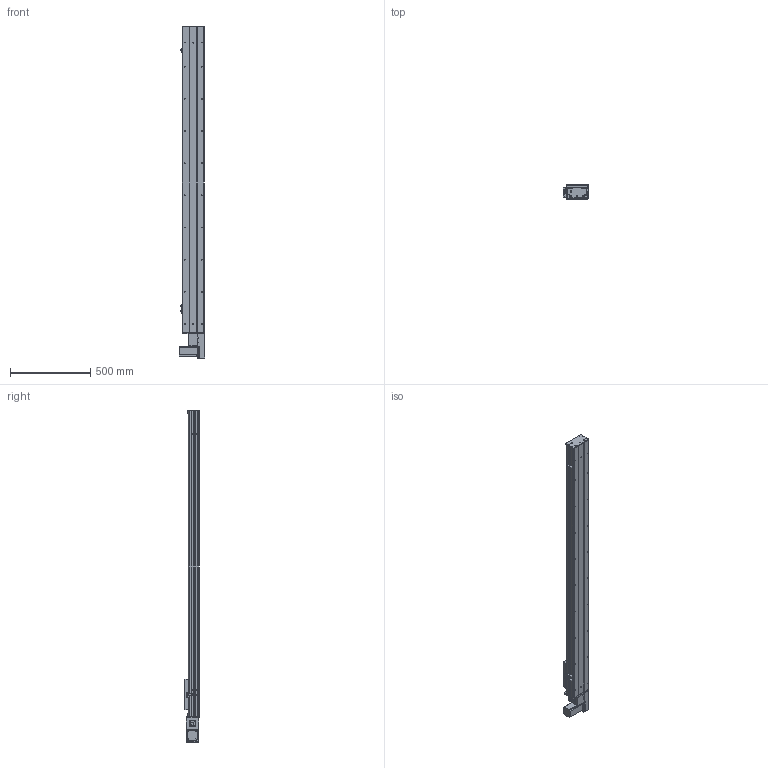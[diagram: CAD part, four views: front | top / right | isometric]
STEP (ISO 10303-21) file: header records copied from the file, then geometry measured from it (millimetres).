
FILE_DESCRIPTION (( 'STEP AP203' ), '1' );
FILE_NAME ('Y135CB-D90-S1600-BL-P400W.STEP', '2020-02-18T01:22:36', ( '微软用户' ), ( '微软中国' ), 'SwSTEP 2.0', 'SolidWorks 2017', '' );
FILE_SCHEMA (( 'CONFIG_CONTROL_DESIGN' ));
Length unit declared in the file: millimetre
Products named in the file (18): 135CB--詩湍-CE; Y10B-耜蚾蟀諉啣----; Y100-135俋离換覜ん--; Y俋欶BR----; Y135C-陔俋离換覜結え-; 0B-埴倛裔啣; 5C--俋欶; 0B-源倛裔啣; C-雄赽釱--; 0B-萇儂楊擘啣; Y135CB-耜裔; Y135CB-D90-S1600-BL-P400W; san松下电机400不带刹车----; 135CB---遴掛极.-; 5CB --掛极耜裔啣-; 35CB---喘謫眊楊擘啣; C-詩湍揤踡え-陔; Y10B--々湍喘謫眊--666
Assembly tree (21 placements, depth 2):
  Y135CB-D90-S1600-BL-P400W
    Y135CB-耜裔
    135CB---遴掛极.-
    35CB---喘謫眊楊擘啣
    Y10B--々湍喘謫眊--666
    Y10B-耜蚾蟀諉啣----
    Y俋欶BR----
    0B-埴倛裔啣
    0B-源倛裔啣
    0B-萇儂楊擘啣
    san松下电机400不带刹车----
    5CB --掛极耜裔啣-  x2
    C-詩湍揤踡え-陔  x2
    135CB--詩湍-CE
    Y100-135俋离換覜ん--  x3
    Y135C-陔俋离換覜結え-
    5C--俋欶
    C-雄赽釱--
Bounding box: 157.5 x 91 x 2064.5 mm (x, y, z)
Volume: 5945449.1 mm3; surface area: 2342838.8 mm2
Topology: 21 solids, 21 shells, 957 faces, 2581 edges, 1710 vertices
Faces by surface type: cylinder 483, plane 458, cone 16
Entity records: 29947 total; most frequent: DIRECTION 4973, CARTESIAN_POINT 4944, ORIENTED_EDGE 4638, EDGE_CURVE 2319, AXIS2_PLACEMENT_3D 1815, VERTEX_POINT 1538, LINE 1343, VECTOR 1343
